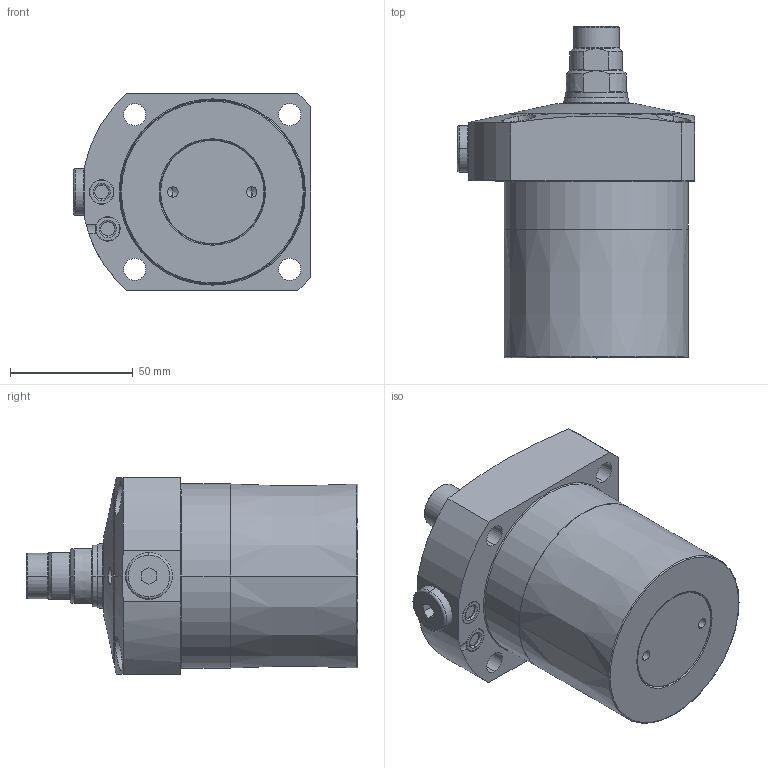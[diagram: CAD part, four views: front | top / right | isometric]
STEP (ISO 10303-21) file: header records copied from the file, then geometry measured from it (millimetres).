
FILE_DESCRIPTION(/* description */ (''),/* implementation_level */ '2;1');
FILE_NAME(/* name */ 'KFSC75-M.stp',/* time_stamp */ '2026-02-04T16:26:41+08:00',/* author */ (''),/* organization */ (''),/* preprocessor_version */ 'ST-DEVELOPER v16.7',/* originating_system */ 'SIEMENS PLM Software NX 12.0',/* authorisation */ '');
FILE_SCHEMA (('AUTOMOTIVE_DESIGN { 1 0 10303 214 3 1 1 1 }'));
Length unit declared in the file: millimetre
Products named in the file (10): XLC-M16_o-ring6969; XLC-M16SP_pad7205; XLC-M16SP_pin1361; XLC-M16SP_contactbolt1244; KFSC75-M-02; KFSC75-M-01; KFSC75-M-04; KFSC75-M-05; KFSC75-M-03; LC0753-CxM_step
Assembly tree (10 placements, depth 3):
  LC0753-CxM_step
    KFSC75-M-03
      XLC-M16SP_contactbolt1244
      XLC-M16SP_pin1361
      XLC-M16SP_pad7205
      XLC-M16_o-ring6969
    KFSC75-M-05  x2
    KFSC75-M-04
    KFSC75-M-01
    KFSC75-M-02
Bounding box: 96.5 x 135 x 80 mm (x, y, z)
Volume: 510570.3 mm3; surface area: 54286.2 mm2
Topology: 9 solids, 9 shells, 279 faces, 619 edges, 374 vertices
Faces by surface type: cylinder 90, cone 62, torus 62, plane 59, sphere 6
Entity records: 8301 total; most frequent: CARTESIAN_POINT 1885, DIRECTION 1420, ORIENTED_EDGE 1174, AXIS2_PLACEMENT_3D 615, EDGE_CURVE 587, VERTEX_POINT 360, CIRCLE 337, EDGE_LOOP 311
